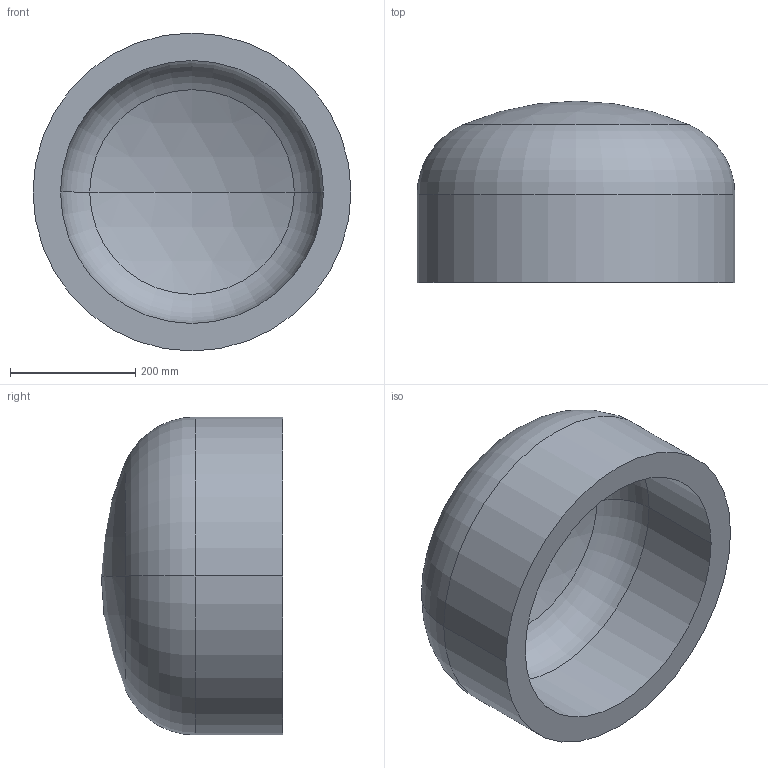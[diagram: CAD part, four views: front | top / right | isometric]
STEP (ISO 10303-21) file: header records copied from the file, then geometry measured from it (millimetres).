
FILE_DESCRIPTION (( 'STEP AP203' ), '1' );
FILE_NAME ('DIN 28013 Korbbogenform_-_Boden DIN 28013 - 508 x 140 - I - s=44.step', '2016-07-01T07:55:02', ( '' ), ( '' ), 'SwSTEP 2.0', 'SolidWorks 2013', '' );
FILE_SCHEMA (( 'CONFIG_CONTROL_DESIGN' ));
Length unit declared in the file: millimetre
Products named in the file (1): DIN 28013 Korbbogenform_-_Boden DIN 28013 - 508 x 140 - I - s=44
Bounding box: 508 x 289.73 x 508 mm (x, y, z)
Volume: 20057716.7 mm3; surface area: 979907.8 mm2
Topology: 1 solids, 1 shells, 13 faces, 24 edges, 14 vertices
Faces by surface type: torus 4, cylinder 4, sphere 4, plane 1
Entity records: 407 total; most frequent: DIRECTION 72, CARTESIAN_POINT 52, ORIENTED_EDGE 48, AXIS2_PLACEMENT_3D 34, EDGE_CURVE 24, CIRCLE 20, VERTEX_POINT 14, EDGE_LOOP 14
